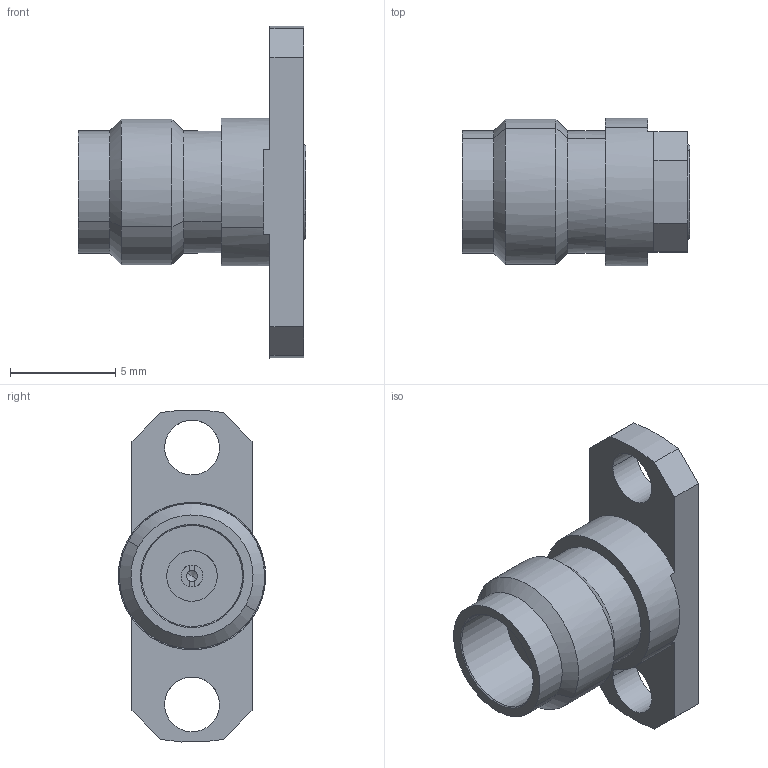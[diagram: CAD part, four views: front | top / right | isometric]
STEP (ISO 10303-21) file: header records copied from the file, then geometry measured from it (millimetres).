
FILE_DESCRIPTION(('CATIA V5 STEP Exchange'),'2;1');
FILE_NAME('F:\Work SZ\CMP 图纸\Precision Coaxial Connector\2.4mm\97-02-9E5-003\97-02-9E5-003(REV.A).stp','2013-08-08T09:40:15+00:00',('none'),('none'),'CATIA Version 5 Release 17 (IN-10)','CATIA V5 STEP AP203','none');
FILE_SCHEMA(('CONFIG_CONTROL_DESIGN'));
Length unit declared in the file: millimetre
Products named in the file (1): 97-02-9E5-003
Bounding box: 10.8 x 7 x 15.77 mm (x, y, z)
Volume: 348.5 mm3; surface area: 545.5 mm2
Topology: 1 solids, 1 shells, 73 faces, 184 edges, 116 vertices
Faces by surface type: plane 33, cylinder 28, cone 12
Entity records: 2549 total; most frequent: CARTESIAN_POINT 913, ORIENTED_EDGE 360, DIRECTION 255, EDGE_CURVE 180, VERTEX_POINT 116, AXIS2_PLACEMENT_3D 98, VECTOR 98, LINE 98
